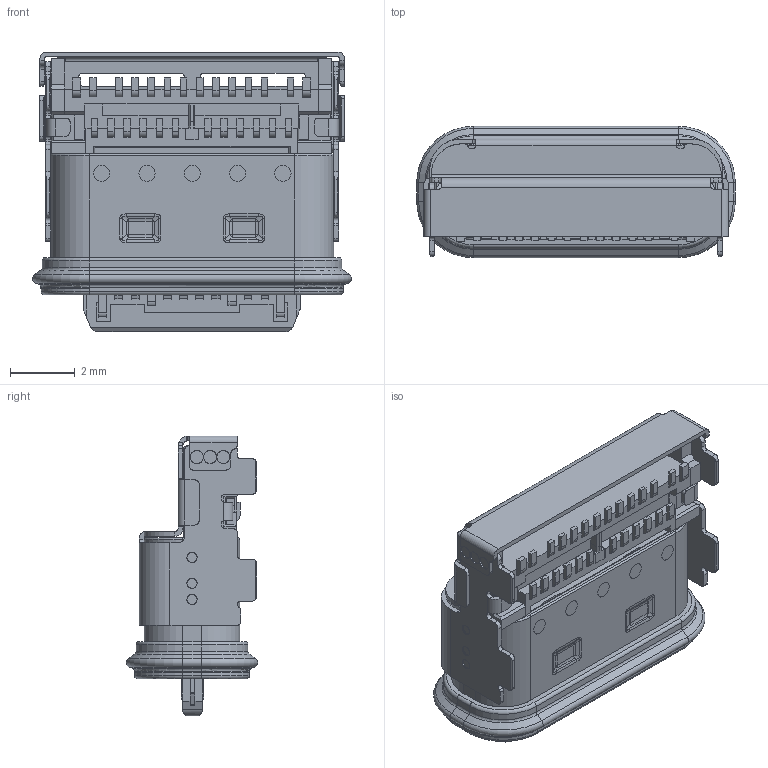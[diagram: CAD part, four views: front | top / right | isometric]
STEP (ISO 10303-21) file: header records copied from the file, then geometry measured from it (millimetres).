
FILE_DESCRIPTION((''),'2;1');
FILE_NAME('217B-BE09_C_1','2025-11-14T',('tim.lee'),(''),'CREO PARAMETRIC BY PTC INC, 2015080','CREO PARAMETRIC BY PTC INC, 2015080','');
FILE_SCHEMA(('CONFIG_CONTROL_DESIGN'));
Products named in the file (1): 217B-BE09_C_1
Bounding box: 9.85 x 4.06 x 8.65 mm (x, y, z)
Surface area: 1222 mm2 (no closed solid volume)
Topology: 0 solids, 620 shells, 6071 faces, 22074 edges, 16173 vertices
Faces by surface type: plane 4253, cylinder 1634, torus 84, bspline 38, sphere 32, cone 28, extrusion 2
Entity records: 236251 total; most frequent: CARTESIAN_POINT 51126, DIRECTION 36467, ORIENTED_EDGE 35989, EDGE_CURVE 22046, VECTOR 17767, LINE 17765, VERTEX_POINT 16173, AXIS2_PLACEMENT_3D 9350
